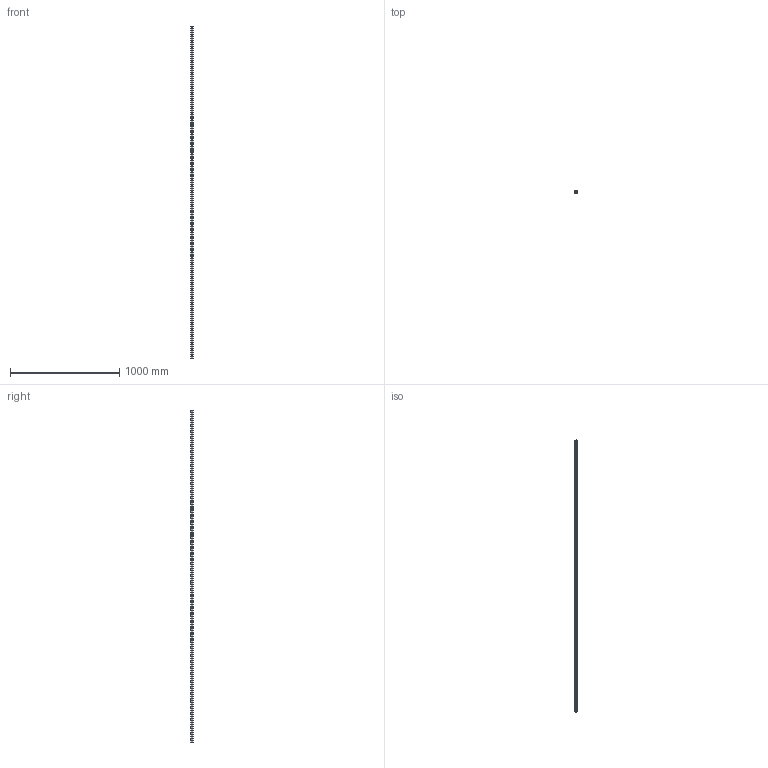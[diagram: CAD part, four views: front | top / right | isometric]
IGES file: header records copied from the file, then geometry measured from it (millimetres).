
Start section: SolidWorks IGES file using analytic representation for surfaces
Global section: file name: C:\Users\IanO\Desktop\L1016_v2\L1016.BL25_v2\L1016.BL25_v2_20160611_IGES\L1016.BL25-3040.igs; native system: SolidWorks 2017; preprocessor: SolidWorks 2017; author: IanO; date: 190612.131348; units: millimetre
Bounding box: 23 x 19.2 x 3040 mm (x, y, z)
Surface area: 287608.4 mm2 (no closed solid volume)
Topology: 0 solids, 0 shells, 281 faces, 7512 edges, 7512 vertices
Faces by surface type: revolution 208, bspline 73
